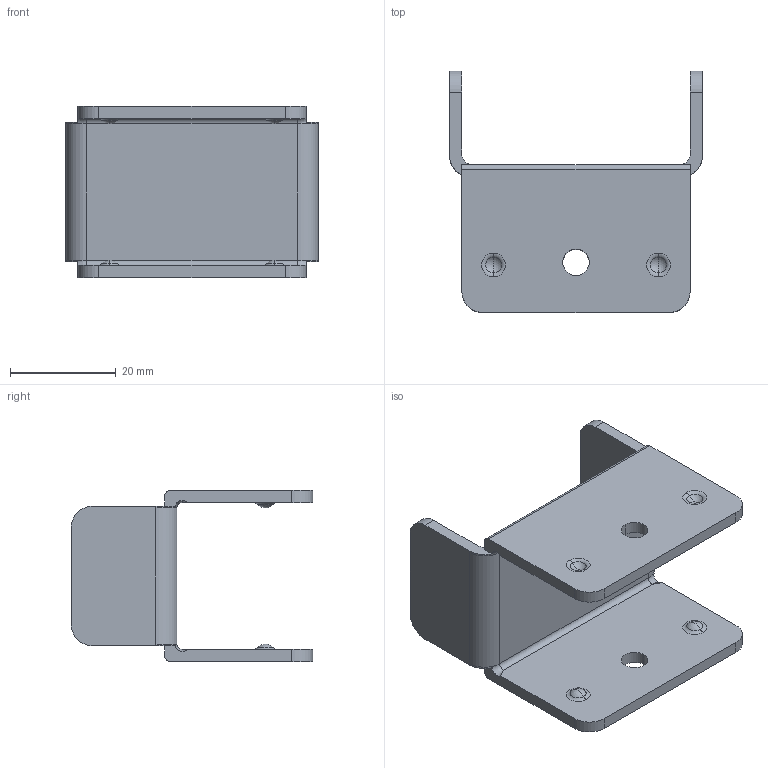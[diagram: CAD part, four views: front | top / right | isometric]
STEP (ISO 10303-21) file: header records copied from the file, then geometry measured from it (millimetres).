
FILE_DESCRIPTION (( 'STEP AP203' ), '1' );
FILE_NAME ('015.200.004.STEP', '2016-10-24T08:38:35', ( '' ), ( '' ), 'SwSTEP 2.0', 'SolidWorks 2016', '' );
FILE_SCHEMA (( 'CONFIG_CONTROL_DESIGN' ));
Length unit declared in the file: millimetre
Products named in the file (1): 015.200.004
Bounding box: 47.8 x 45.7 x 32.4 mm (x, y, z)
Volume: 10464.1 mm3; surface area: 9826.2 mm2
Topology: 1 solids, 1 shells, 80 faces, 196 edges, 126 vertices
Faces by surface type: torus 22, plane 22, cylinder 20, sphere 16
Entity records: 2533 total; most frequent: DIRECTION 466, CARTESIAN_POINT 463, ORIENTED_EDGE 392, AXIS2_PLACEMENT_3D 197, EDGE_CURVE 196, VERTEX_POINT 126, CIRCLE 116, EDGE_LOOP 92
